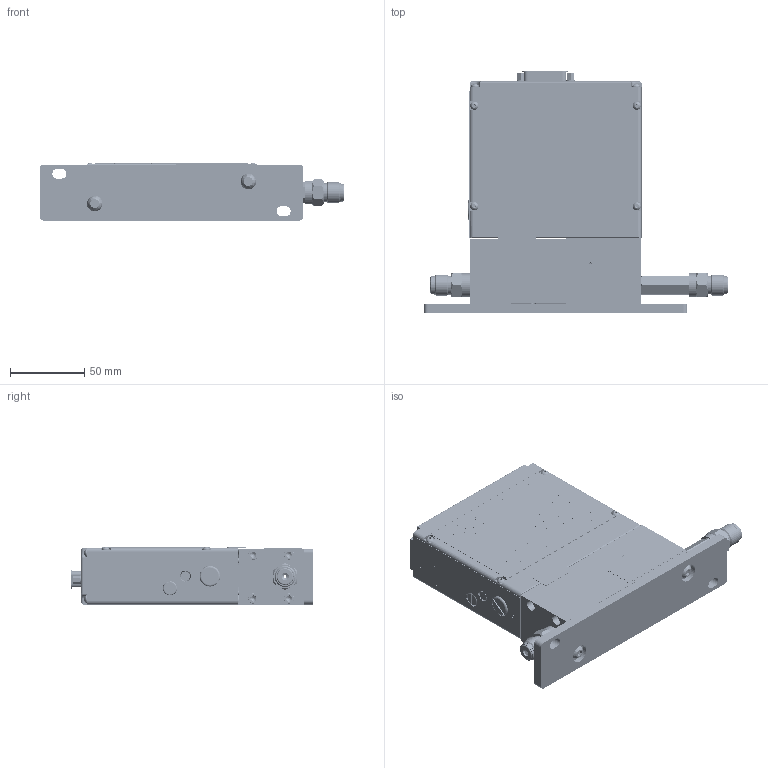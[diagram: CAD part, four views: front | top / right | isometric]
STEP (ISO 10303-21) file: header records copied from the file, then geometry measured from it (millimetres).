
FILE_DESCRIPTION (( 'STEP AP214' ), '1' );
FILE_NAME ('QMC-C-B-A-1M-1-Z.STEP', '2024-03-08T15:18:57', ( '' ), ( '' ), 'SwSTEP 2.0', 'SolidWorks 2020', '' );
FILE_SCHEMA (( 'AUTOMOTIVE_DESIGN' ));
Length unit declared in the file: inch
Products named in the file (1): QMC-C-B-A-1M-1-Z
Bounding box: 205.43 x 163.6 x 38.49 mm (x, y, z)
Volume: 208061.2 mm3; surface area: 174983.5 mm2
Topology: 56 solids, 56 shells, 3964 faces, 10652 edges, 7210 vertices
Faces by surface type: plane 1673, bspline 1023, cylinder 782, cone 418, torus 42, sphere 26
Entity records: 476721 total; most frequent: CARTESIAN_POINT 333747, ORIENTED_EDGE 21240, DIRECTION 14664, EDGE_CURVE 10620, VERTEX_POINT 7204, VECTOR 5398, LINE 5398, AXIS2_PLACEMENT_3D 4633
